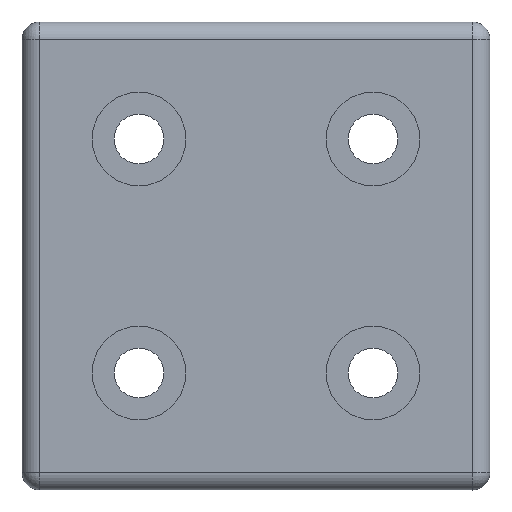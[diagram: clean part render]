
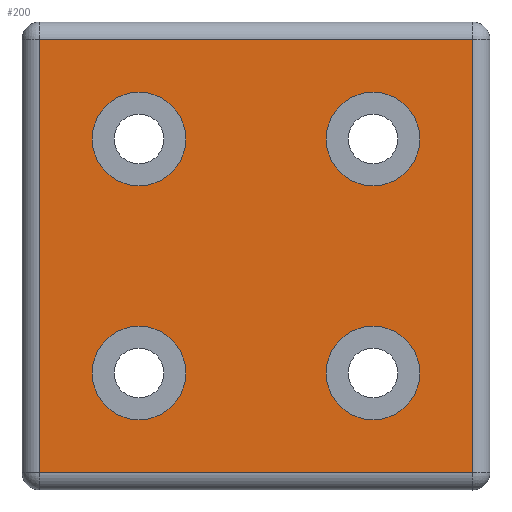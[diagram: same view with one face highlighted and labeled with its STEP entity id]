
A CAD part, left-side view. The second image highlights one B-rep face of the part: STEP entity #200.
In plain terms, the highlighted planar face has unit normal (-1, 0, 0) as drawn and (0, 0, 1) by its records, which use the part's own axes.
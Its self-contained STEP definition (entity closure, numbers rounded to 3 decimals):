
#2 = EDGE_CURVE ( 'NONE', #1184, #762, #622, .T. ) ;
#4 = AXIS2_PLACEMENT_3D ( 'NONE', #912, #155, #929 ) ;
#7 = DIRECTION ( 'NONE',  ( 1., 0., 0. ) ) ;
#14 = CARTESIAN_POINT ( 'NONE',  ( -12., -20., 3. ) ) ;
#19 = ORIENTED_EDGE ( 'NONE', *, *, #562, .F. ) ;
#45 = VERTEX_POINT ( 'NONE', #1233 ) ;
#48 = DIRECTION ( 'NONE',  ( 0., 0., 1. ) ) ;
#64 = VERTEX_POINT ( 'NONE', #706 ) ;
#65 = EDGE_CURVE ( 'NONE', #1083, #64, #144, .T. ) ;
#71 = CARTESIAN_POINT ( 'NONE',  ( -37., 37., 3. ) ) ;
#115 = LINE ( 'NONE', #779, #301 ) ;
#118 = CARTESIAN_POINT ( 'NONE',  ( -20., -20., 3. ) ) ;
#129 = CIRCLE ( 'NONE', #1036, 8. ) ;
#136 = CARTESIAN_POINT ( 'NONE',  ( -20., 20., 3. ) ) ;
#144 = CIRCLE ( 'NONE', #163, 8. ) ;
#151 = VERTEX_POINT ( 'NONE', #888 ) ;
#154 = DIRECTION ( 'NONE',  ( 0., 0., 1. ) ) ;
#155 = DIRECTION ( 'NONE',  ( 0., 0., 1. ) ) ;
#156 = EDGE_CURVE ( 'NONE', #558, #433, #817, .T. ) ;
#163 = AXIS2_PLACEMENT_3D ( 'NONE', #190, #154, #682 ) ;
#175 = ORIENTED_EDGE ( 'NONE', *, *, #628, .T. ) ;
#190 = CARTESIAN_POINT ( 'NONE',  ( 20., -20., 3. ) ) ;
#200 = ADVANCED_FACE ( 'NONE', ( #665, #1333, #1237, #751, #607 ), #202, .T. ) ;
#202 = PLANE ( 'NONE',  #412 ) ;
#211 = EDGE_CURVE ( 'NONE', #151, #890, #129, .T. ) ;
#222 = DIRECTION ( 'NONE',  ( 0., 0., 1. ) ) ;
#225 = DIRECTION ( 'NONE',  ( 0., 0., 1. ) ) ;
#239 = VECTOR ( 'NONE', #573, 1000. ) ;
#257 = AXIS2_PLACEMENT_3D ( 'NONE', #765, #548, #524 ) ;
#276 = CARTESIAN_POINT ( 'NONE',  ( 12., 20., 3. ) ) ;
#288 = VECTOR ( 'NONE', #949, 1000. ) ;
#299 = LINE ( 'NONE', #1157, #239 ) ;
#301 = VECTOR ( 'NONE', #656, 1000. ) ;
#318 = EDGE_CURVE ( 'NONE', #433, #558, #329, .T. ) ;
#329 = CIRCLE ( 'NONE', #828, 8. ) ;
#334 = CIRCLE ( 'NONE', #4, 8. ) ;
#347 = DIRECTION ( 'NONE',  ( 1., 0., 0. ) ) ;
#386 = EDGE_LOOP ( 'NONE', ( #922, #1219 ) ) ;
#412 = AXIS2_PLACEMENT_3D ( 'NONE', #883, #566, #1298 ) ;
#413 = DIRECTION ( 'NONE',  ( 1., 0., 0. ) ) ;
#418 = CIRCLE ( 'NONE', #918, 8. ) ;
#429 = DIRECTION ( 'NONE',  ( 0., 0., 1. ) ) ;
#433 = VERTEX_POINT ( 'NONE', #645 ) ;
#439 = AXIS2_PLACEMENT_3D ( 'NONE', #118, #429, #579 ) ;
#488 = ORIENTED_EDGE ( 'NONE', *, *, #1357, .T. ) ;
#499 = EDGE_CURVE ( 'NONE', #660, #45, #115, .T. ) ;
#502 = CARTESIAN_POINT ( 'NONE',  ( -37., -37., 3. ) ) ;
#524 = DIRECTION ( 'NONE',  ( 1., 0., 0. ) ) ;
#529 = CARTESIAN_POINT ( 'NONE',  ( -20., 20., 3. ) ) ;
#548 = DIRECTION ( 'NONE',  ( 0., 0., 1. ) ) ;
#558 = VERTEX_POINT ( 'NONE', #14 ) ;
#562 = EDGE_CURVE ( 'NONE', #890, #151, #418, .T. ) ;
#566 = DIRECTION ( 'NONE',  ( 0., 0., 1. ) ) ;
#573 = DIRECTION ( 'NONE',  ( -1., 0., 0. ) ) ;
#579 = DIRECTION ( 'NONE',  ( 1., 0., 0. ) ) ;
#598 = EDGE_CURVE ( 'NONE', #1090, #1114, #827, .T. ) ;
#599 = CIRCLE ( 'NONE', #795, 8. ) ;
#604 = CARTESIAN_POINT ( 'NONE',  ( 12., -20., 3. ) ) ;
#607 = FACE_BOUND ( 'NONE', #980, .T. ) ;
#622 = LINE ( 'NONE', #1205, #288 ) ;
#628 = EDGE_CURVE ( 'NONE', #762, #660, #693, .T. ) ;
#645 = CARTESIAN_POINT ( 'NONE',  ( -28., -20., 3. ) ) ;
#656 = DIRECTION ( 'NONE',  ( 0., 1., 0. ) ) ;
#660 = VERTEX_POINT ( 'NONE', #1037 ) ;
#665 = FACE_OUTER_BOUND ( 'NONE', #1303, .T. ) ;
#667 = ORIENTED_EDGE ( 'NONE', *, *, #318, .F. ) ;
#682 = DIRECTION ( 'NONE',  ( 1., 0., 0. ) ) ;
#693 = LINE ( 'NONE', #1042, #928 ) ;
#700 = EDGE_LOOP ( 'NONE', ( #1279, #868 ) ) ;
#706 = CARTESIAN_POINT ( 'NONE',  ( 28., -20., 3. ) ) ;
#740 = CARTESIAN_POINT ( 'NONE',  ( -12., 20., 3. ) ) ;
#751 = FACE_BOUND ( 'NONE', #700, .T. ) ;
#758 = DIRECTION ( 'NONE',  ( 1., 0., 0. ) ) ;
#762 = VERTEX_POINT ( 'NONE', #502 ) ;
#765 = CARTESIAN_POINT ( 'NONE',  ( 20., 20., 3. ) ) ;
#770 = EDGE_LOOP ( 'NONE', ( #19, #1121 ) ) ;
#772 = DIRECTION ( 'NONE',  ( 0., 0., 1. ) ) ;
#779 = CARTESIAN_POINT ( 'NONE',  ( 37., 40., 3. ) ) ;
#795 = AXIS2_PLACEMENT_3D ( 'NONE', #1143, #222, #758 ) ;
#807 = EDGE_CURVE ( 'NONE', #64, #1083, #334, .T. ) ;
#817 = CIRCLE ( 'NONE', #439, 8. ) ;
#822 = ORIENTED_EDGE ( 'NONE', *, *, #499, .T. ) ;
#827 = CIRCLE ( 'NONE', #257, 8. ) ;
#828 = AXIS2_PLACEMENT_3D ( 'NONE', #954, #772, #934 ) ;
#868 = ORIENTED_EDGE ( 'NONE', *, *, #65, .F. ) ;
#883 = CARTESIAN_POINT ( 'NONE',  ( 0., 0., 3. ) ) ;
#888 = CARTESIAN_POINT ( 'NONE',  ( -28., 20., 3. ) ) ;
#890 = VERTEX_POINT ( 'NONE', #740 ) ;
#912 = CARTESIAN_POINT ( 'NONE',  ( 20., -20., 3. ) ) ;
#918 = AXIS2_PLACEMENT_3D ( 'NONE', #136, #225, #413 ) ;
#922 = ORIENTED_EDGE ( 'NONE', *, *, #598, .F. ) ;
#928 = VECTOR ( 'NONE', #7, 1000. ) ;
#929 = DIRECTION ( 'NONE',  ( 1., 0., 0. ) ) ;
#934 = DIRECTION ( 'NONE',  ( 1., 0., 0. ) ) ;
#949 = DIRECTION ( 'NONE',  ( 0., -1., 0. ) ) ;
#954 = CARTESIAN_POINT ( 'NONE',  ( -20., -20., 3. ) ) ;
#980 = EDGE_LOOP ( 'NONE', ( #1129, #667 ) ) ;
#1036 = AXIS2_PLACEMENT_3D ( 'NONE', #529, #48, #347 ) ;
#1037 = CARTESIAN_POINT ( 'NONE',  ( 37., -37., 3. ) ) ;
#1042 = CARTESIAN_POINT ( 'NONE',  ( 40., -37., 3. ) ) ;
#1048 = CARTESIAN_POINT ( 'NONE',  ( 28., 20., 3. ) ) ;
#1083 = VERTEX_POINT ( 'NONE', #604 ) ;
#1090 = VERTEX_POINT ( 'NONE', #1048 ) ;
#1107 = EDGE_CURVE ( 'NONE', #1114, #1090, #599, .T. ) ;
#1114 = VERTEX_POINT ( 'NONE', #276 ) ;
#1121 = ORIENTED_EDGE ( 'NONE', *, *, #211, .F. ) ;
#1129 = ORIENTED_EDGE ( 'NONE', *, *, #156, .F. ) ;
#1143 = CARTESIAN_POINT ( 'NONE',  ( 20., 20., 3. ) ) ;
#1157 = CARTESIAN_POINT ( 'NONE',  ( -40., 37., 3. ) ) ;
#1184 = VERTEX_POINT ( 'NONE', #71 ) ;
#1205 = CARTESIAN_POINT ( 'NONE',  ( -37., -40., 3. ) ) ;
#1219 = ORIENTED_EDGE ( 'NONE', *, *, #1107, .F. ) ;
#1233 = CARTESIAN_POINT ( 'NONE',  ( 37., 37., 3. ) ) ;
#1237 = FACE_BOUND ( 'NONE', #386, .T. ) ;
#1279 = ORIENTED_EDGE ( 'NONE', *, *, #807, .F. ) ;
#1298 = DIRECTION ( 'NONE',  ( 1., 0., 0. ) ) ;
#1303 = EDGE_LOOP ( 'NONE', ( #1340, #175, #822, #488 ) ) ;
#1333 = FACE_BOUND ( 'NONE', #770, .T. ) ;
#1340 = ORIENTED_EDGE ( 'NONE', *, *, #2, .T. ) ;
#1357 = EDGE_CURVE ( 'NONE', #45, #1184, #299, .T. ) ;
